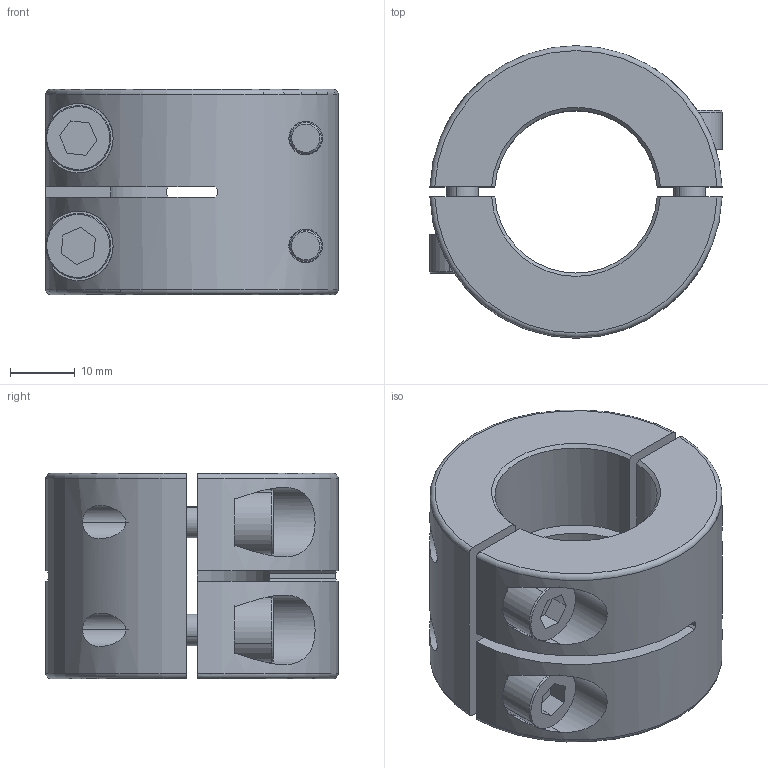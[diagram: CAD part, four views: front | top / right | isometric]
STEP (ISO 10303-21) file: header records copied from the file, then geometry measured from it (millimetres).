
FILE_DESCRIPTION (( 'STEP AP214' ), '1' );
FILE_NAME ('Ruland_MWSP-25-F.step', '2017-08-22T12:49:29', ( '' ), ( '' ), 'SwSTEP 2.0', 'SolidWorks 2017', '' );
FILE_SCHEMA (( 'AUTOMOTIVE_DESIGN' ));
Length unit declared in the file: inch
Products named in the file (4): Metric Socket Head Cap Screws 1_CFM6_16; MWSP Assembled_MWSP-25-F; Ruland_MWSP-25-F; MWSP Dbl Wide Collars top and bottom_MWSP-25
Assembly tree (7 placements, depth 3):
  Ruland_MWSP-25-F
    MWSP Assembled_MWSP-25-F
      MWSP Dbl Wide Collars top and bottom_MWSP-25  x2
    Metric Socket Head Cap Screws 1_CFM6_16  x4
Bounding box: 44.99 x 45 x 31.59 mm (x, y, z)
Volume: 31169.7 mm3; surface area: 15049.2 mm2
Topology: 6 solids, 6 shells, 136 faces, 320 edges, 208 vertices
Faces by surface type: plane 64, cylinder 48, cone 20, torus 4
Entity records: 1958 total; most frequent: CARTESIAN_POINT 541, DIRECTION 264, ORIENTED_EDGE 244, EDGE_CURVE 122, AXIS2_PLACEMENT_3D 103, VERTEX_POINT 80, EDGE_LOOP 62, LINE 58
